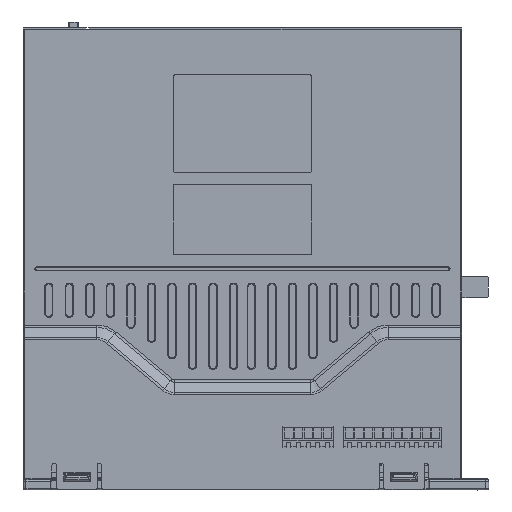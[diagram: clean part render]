
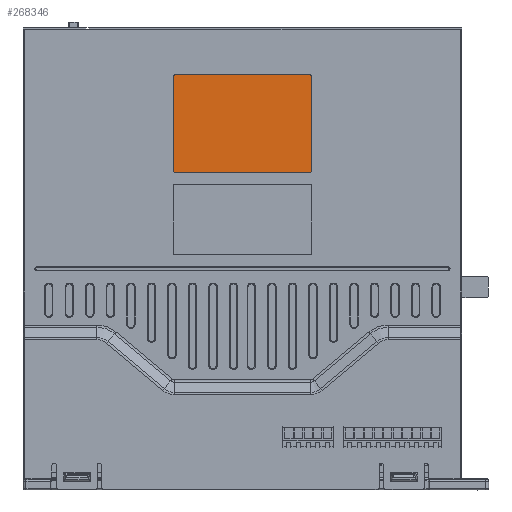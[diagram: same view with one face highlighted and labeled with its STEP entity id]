
A CAD part, front view. The second image highlights one B-rep face of the part: STEP entity #268346.
In plain terms, the highlighted planar face has unit normal (0, -1, 0).
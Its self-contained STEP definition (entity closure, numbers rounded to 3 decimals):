
#236365=CARTESIAN_POINT('',(-24.5,-22.7,150.5));
#236366=DIRECTION('',(0.,-1.,0.));
#236367=DIRECTION('',(0.,0.,1.));
#236368=AXIS2_PLACEMENT_3D('',#236365,#236366,#236367);
#236373=DIRECTION('',(-1.,0.,0.));
#236374=VECTOR('',#236373,49.);
#236375=CARTESIAN_POINT('',(24.5,-22.7,151.35));
#236376=LINE('',#236375,#236374);
#236380=CARTESIAN_POINT('',(24.5,-22.7,150.5));
#236381=DIRECTION('',(0.,-1.,0.));
#236382=DIRECTION('',(1.,0.,0.));
#236383=AXIS2_PLACEMENT_3D('',#236380,#236381,#236382);
#236388=DIRECTION('',(0.,0.,1.));
#236389=VECTOR('',#236388,34.);
#236390=CARTESIAN_POINT('',(25.35,-22.7,116.5));
#236391=LINE('',#236390,#236389);
#236395=CARTESIAN_POINT('',(24.5,-22.7,116.5));
#236396=DIRECTION('',(0.,-1.,0.));
#236397=DIRECTION('',(0.,0.,-1.));
#236398=AXIS2_PLACEMENT_3D('',#236395,#236396,#236397);
#236403=DIRECTION('',(1.,0.,0.));
#236404=VECTOR('',#236403,49.);
#236405=CARTESIAN_POINT('',(-24.5,-22.7,115.65));
#236406=LINE('',#236405,#236404);
#236410=CARTESIAN_POINT('',(-24.5,-22.7,116.5));
#236411=DIRECTION('',(0.,-1.,0.));
#236412=DIRECTION('',(-1.,0.,0.));
#236413=AXIS2_PLACEMENT_3D('',#236410,#236411,#236412);
#236418=DIRECTION('',(0.,0.,-1.));
#236419=VECTOR('',#236418,34.);
#236420=CARTESIAN_POINT('',(-25.35,-22.7,150.5));
#236421=LINE('',#236420,#236419);
#247202=CARTESIAN_POINT('',(-24.5,-22.7,151.35));
#247203=CARTESIAN_POINT('',(-25.35,-22.7,150.5));
#247204=VERTEX_POINT('',#247202);
#247205=VERTEX_POINT('',#247203);
#247206=CARTESIAN_POINT('',(-25.35,-22.7,116.5));
#247207=VERTEX_POINT('',#247206);
#247208=CARTESIAN_POINT('',(-24.5,-22.7,115.65));
#247209=VERTEX_POINT('',#247208);
#247210=CARTESIAN_POINT('',(24.5,-22.7,115.65));
#247211=VERTEX_POINT('',#247210);
#247212=CARTESIAN_POINT('',(25.35,-22.7,116.5));
#247213=VERTEX_POINT('',#247212);
#247214=CARTESIAN_POINT('',(25.35,-22.7,150.5));
#247215=VERTEX_POINT('',#247214);
#247216=CARTESIAN_POINT('',(24.5,-22.7,151.35));
#247217=VERTEX_POINT('',#247216);
#268331=CARTESIAN_POINT('',(0.,-22.7,0.));
#268332=DIRECTION('',(0.,-1.,0.));
#268333=DIRECTION('',(1.,0.,0.));
#268334=AXIS2_PLACEMENT_3D('',#268331,#268332,#268333);
#268335=PLANE('',#268334);
#268336=ORIENTED_EDGE('',*,*,#268227,.F.);
#268337=ORIENTED_EDGE('',*,*,#268242,.F.);
#268338=ORIENTED_EDGE('',*,*,#268256,.F.);
#268339=ORIENTED_EDGE('',*,*,#268270,.F.);
#268340=ORIENTED_EDGE('',*,*,#268284,.F.);
#268341=ORIENTED_EDGE('',*,*,#268298,.F.);
#268342=ORIENTED_EDGE('',*,*,#268312,.F.);
#268343=ORIENTED_EDGE('',*,*,#268325,.F.);
#268344=EDGE_LOOP('',(#268336,#268337,#268338,#268339,#268340,#268341,#268342,
#268343));
#268345=FACE_OUTER_BOUND('',#268344,.F.);
#236369=CIRCLE('',#236368,0.85);
#236384=CIRCLE('',#236383,0.85);
#236399=CIRCLE('',#236398,0.85);
#236414=CIRCLE('',#236413,0.85);
#268227=EDGE_CURVE('',#247204,#247205,#236369,.T.);
#268242=EDGE_CURVE('',#247217,#247204,#236376,.T.);
#268256=EDGE_CURVE('',#247215,#247217,#236384,.T.);
#268270=EDGE_CURVE('',#247213,#247215,#236391,.T.);
#268284=EDGE_CURVE('',#247211,#247213,#236399,.T.);
#268298=EDGE_CURVE('',#247209,#247211,#236406,.T.);
#268312=EDGE_CURVE('',#247207,#247209,#236414,.T.);
#268325=EDGE_CURVE('',#247205,#247207,#236421,.T.);
#268346=ADVANCED_FACE('',(#268345),#268335,.T.);
